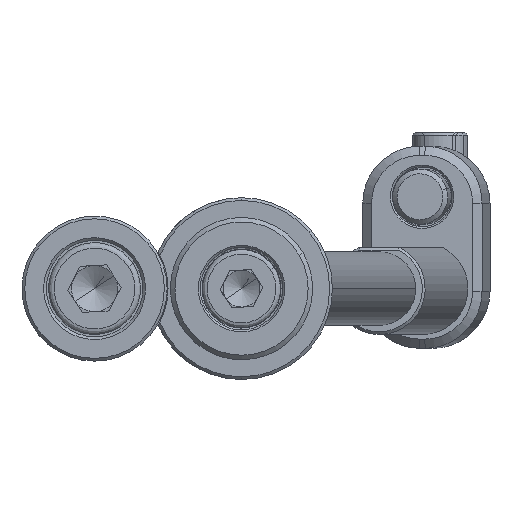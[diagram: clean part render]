
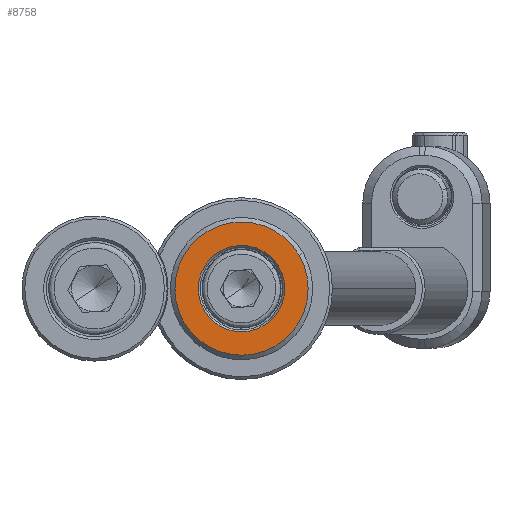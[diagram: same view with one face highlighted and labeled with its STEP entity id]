
A CAD part, front view. The second image highlights one B-rep face of the part: STEP entity #8758.
In plain terms, the highlighted planar face has unit normal (0, -1, 0).
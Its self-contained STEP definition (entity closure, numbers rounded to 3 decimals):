
#12 = VERTEX_POINT ( 'NONE', #315 ) ;
#282 = ORIENTED_EDGE ( 'NONE', *, *, #4764, .T. ) ;
#315 = CARTESIAN_POINT ( 'NONE',  ( -4.063, -4., -2.362 ) ) ;
#505 = AXIS2_PLACEMENT_3D ( 'NONE', #10875, #7417, #875 ) ;
#689 = DIRECTION ( 'NONE',  ( 0., -1., 0. ) ) ;
#875 = DIRECTION ( 'NONE',  ( -0.865, 0., -0.503 ) ) ;
#910 = DIRECTION ( 'NONE',  ( 0., 1., 0. ) ) ;
#1173 = VERTEX_POINT ( 'NONE', #8661 ) ;
#1678 = EDGE_CURVE ( 'NONE', #1173, #12, #1784, .T. ) ;
#1784 = CIRCLE ( 'NONE', #13929, 4.7 ) ;
#1841 = CARTESIAN_POINT ( 'NONE',  ( 0., -4., 0. ) ) ;
#3080 = CARTESIAN_POINT ( 'NONE',  ( -6.268, -4., -3.643 ) ) ;
#3355 = DIRECTION ( 'NONE',  ( -0.865, 0., -0.503 ) ) ;
#3514 = AXIS2_PLACEMENT_3D ( 'NONE', #1841, #689, #6310 ) ;
#3973 = ORIENTED_EDGE ( 'NONE', *, *, #4810, .T. ) ;
#4273 = DIRECTION ( 'NONE',  ( -0.865, 0., -0.503 ) ) ;
#4499 = DIRECTION ( 'NONE',  ( 0., -1., 0. ) ) ;
#4603 = CARTESIAN_POINT ( 'NONE',  ( 6.268, -4., 3.643 ) ) ;
#4682 = ORIENTED_EDGE ( 'NONE', *, *, #14185, .T. ) ;
#4708 = VERTEX_POINT ( 'NONE', #3080 ) ;
#4764 = EDGE_CURVE ( 'NONE', #4708, #10331, #9506, .T. ) ;
#4810 = EDGE_CURVE ( 'NONE', #10331, #4708, #12684, .T. ) ;
#5003 = FACE_OUTER_BOUND ( 'NONE', #13719, .T. ) ;
#6310 = DIRECTION ( 'NONE',  ( -0.865, 0., -0.503 ) ) ;
#7417 = DIRECTION ( 'NONE',  ( 0., 1., 0. ) ) ;
#7456 = DIRECTION ( 'NONE',  ( 0., 1., 0. ) ) ;
#7599 = CARTESIAN_POINT ( 'NONE',  ( 2.261, -4., -3.891 ) ) ;
#7880 = CIRCLE ( 'NONE', #505, 4.7 ) ;
#8150 = ORIENTED_EDGE ( 'NONE', *, *, #1678, .T. ) ;
#8423 = AXIS2_PLACEMENT_3D ( 'NONE', #7599, #7456, #4273 ) ;
#8661 = CARTESIAN_POINT ( 'NONE',  ( 4.063, -4., 2.362 ) ) ;
#8758 = ADVANCED_FACE ( 'NONE', ( #9409, #5003 ), #10336, .F. ) ;
#9252 = AXIS2_PLACEMENT_3D ( 'NONE', #11008, #4499, #3355 ) ;
#9409 = FACE_BOUND ( 'NONE', #11261, .T. ) ;
#9506 = CIRCLE ( 'NONE', #3514, 7.25 ) ;
#9758 = CARTESIAN_POINT ( 'NONE',  ( 0., -4., 0. ) ) ;
#10331 = VERTEX_POINT ( 'NONE', #4603 ) ;
#10336 = PLANE ( 'NONE',  #8423 ) ;
#10875 = CARTESIAN_POINT ( 'NONE',  ( 0., -4., 0. ) ) ;
#10912 = DIRECTION ( 'NONE',  ( -0.865, 0., -0.503 ) ) ;
#11008 = CARTESIAN_POINT ( 'NONE',  ( 0., -4., 0. ) ) ;
#11261 = EDGE_LOOP ( 'NONE', ( #8150, #4682 ) ) ;
#12684 = CIRCLE ( 'NONE', #9252, 7.25 ) ;
#13719 = EDGE_LOOP ( 'NONE', ( #282, #3973 ) ) ;
#13929 = AXIS2_PLACEMENT_3D ( 'NONE', #9758, #910, #10912 ) ;
#14185 = EDGE_CURVE ( 'NONE', #12, #1173, #7880, .T. ) ;
